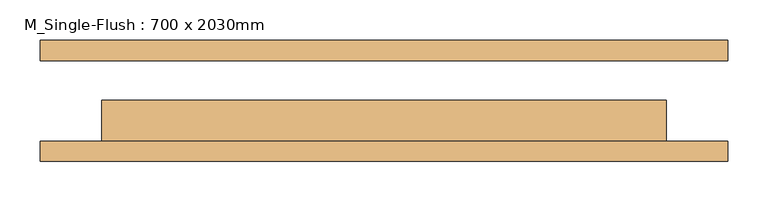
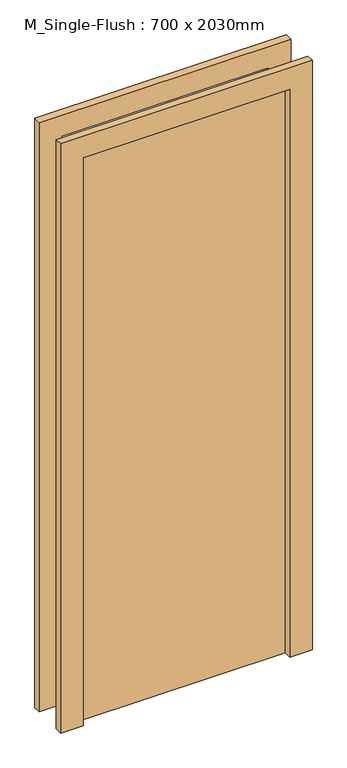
"""IFC4 building model written with IfcOpenShell, lengths in millimetres: door geometry, M_Single-Flush : 700 x 2030mm."""

from ifc_helpers import new_model, si_unit, frame, origin, origin_with_axes, place, context, project, spatial, polyline, outline, extrude, source, transform, mapped, element, save


def m_single_flush_700_x_2030mm_d9138d7c(model_context):
    return source(origin(), model_context, "Body", "SweptSolid", [
        extrude(outline(polyline([(2106.0, -426.0), (0.0, -426.0), (0.0, -350.0), (2030.0, -350.0), (2030.0, 350.0), (0.0, 350.0), (0.0, 426.0), (2106.0, 426.0), (2106.0, -426.0)])), frame((0.0, -75.0, 0.0), z_axis=(0.0, 1.0, 0.0), x_axis=(0.0, 0.0, 1.0)), (0.0, 0.0, 1.0), 25.0),
        extrude(outline(polyline([(2106.0, 426.0), (2106.0, -426.0), (0.0, -426.0), (0.0, -350.0), (2030.0, -350.0), (2030.0, 350.0), (0.0, 350.0), (0.0, 426.0), (2106.0, 426.0)])), frame((0.0, 50.0, 0.0), z_axis=(0.0, 1.0, 0.0), x_axis=(0.0, 0.0, 1.0)), (0.0, 0.0, 1.0), 25.0),
        extrude(outline(polyline([(350.0, 1.0), (350.0, -50.0), (-350.0, -50.0), (-350.0, 1.0), (350.0, 1.0)])), origin_with_axes(), (0.0, 0.0, 1.0), 2030.0),
    ])


if __name__ == "__main__":
    model = new_model("IFC4")
    model_context = context("Model", 3, world=origin())
    ifc_project = project(units=[si_unit("LENGTHUNIT", "METRE", prefix="MILLI")], contexts=[model_context])
    site = spatial("IfcSite", under=ifc_project)
    building = spatial("IfcBuilding", under=site)
    placement = place(None, origin())
    m_single_flush_700_x_2030mm_shape = m_single_flush_700_x_2030mm_d9138d7c(model_context)
    element("IfcDoor", 1, ObjectType="M_Single-Flush : 700 x 2030mm", at=placement, inside=building, context=model_context, shape_type="MappedRepresentation", body=[
        mapped(m_single_flush_700_x_2030mm_shape, transform((0.0, 0.0, 0.0), x_axis=(1.0, 0.0, 0.0), y_axis=(0.0, 1.0, 0.0), z_axis=(0.0, 0.0, 1.0))),
    ])
    save(model, "model.ifc")
